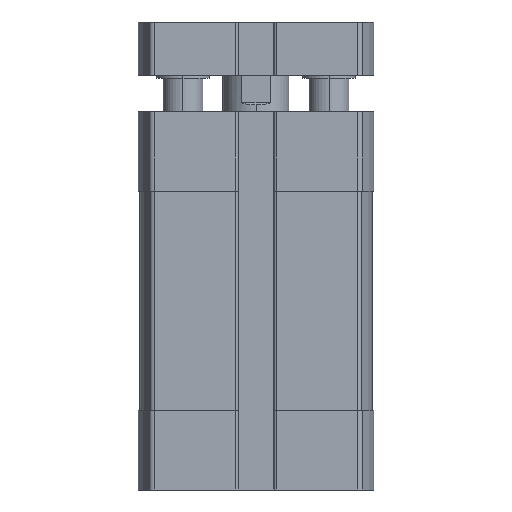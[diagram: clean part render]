
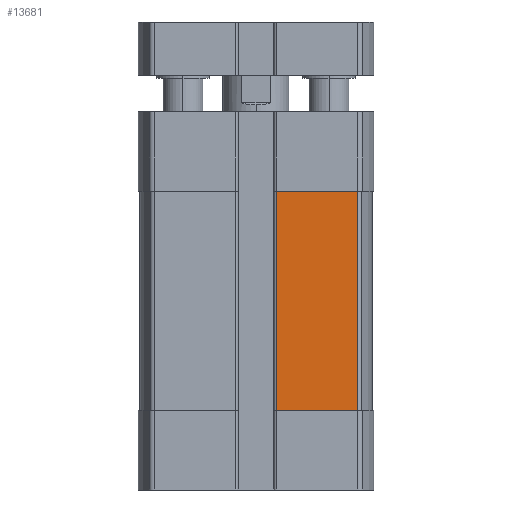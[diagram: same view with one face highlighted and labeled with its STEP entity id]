
A CAD part, front view. The second image highlights one B-rep face of the part: STEP entity #13681.
In plain terms, the highlighted planar face has unit normal (0, -1, 0).
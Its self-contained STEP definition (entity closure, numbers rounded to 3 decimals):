
#625 = DIRECTION ( 'NONE',  ( 0., 0., 1. ) ) ;
#659 = VERTEX_POINT ( 'NONE', #5002 ) ;
#1702 = EDGE_CURVE ( 'NONE', #659, #3060, #16929, .T. ) ;
#1796 = EDGE_CURVE ( 'NONE', #659, #3845, #16464, .T. ) ;
#2279 = EDGE_CURVE ( 'NONE', #3060, #17694, #8225, .T. ) ;
#3060 = VERTEX_POINT ( 'NONE', #15409 ) ;
#3845 = VERTEX_POINT ( 'NONE', #9627 ) ;
#3907 = DIRECTION ( 'NONE',  ( 1., 0., 0. ) ) ;
#5002 = CARTESIAN_POINT ( 'NONE',  ( 3.1, -17.5, -45. ) ) ;
#5481 = AXIS2_PLACEMENT_3D ( 'NONE', #17438, #8432, #15816 ) ;
#6382 = DIRECTION ( 'NONE',  ( 1., 0., 0. ) ) ;
#6874 = EDGE_CURVE ( 'NONE', #3845, #17694, #14474, .T. ) ;
#7943 = CARTESIAN_POINT ( 'NONE',  ( 3.1, -17.5, -45. ) ) ;
#8225 = LINE ( 'NONE', #15004, #12331 ) ;
#8432 = DIRECTION ( 'NONE',  ( 0., -1., 0. ) ) ;
#9627 = CARTESIAN_POINT ( 'NONE',  ( 15.253, -17.5, -45. ) ) ;
#10976 = CARTESIAN_POINT ( 'NONE',  ( 3.1, -17.5, -45. ) ) ;
#11608 = PLANE ( 'NONE',  #5481 ) ;
#11967 = EDGE_LOOP ( 'NONE', ( #16711, #18884, #15344, #14953 ) ) ;
#12331 = VECTOR ( 'NONE', #6382, 1000. ) ;
#13493 = CARTESIAN_POINT ( 'NONE',  ( 15.253, -17.5, -45. ) ) ;
#13512 = VECTOR ( 'NONE', #3907, 1000. ) ;
#13681 = ADVANCED_FACE ( 'NONE', ( #17617 ), #11608, .T. ) ;
#14474 = LINE ( 'NONE', #13493, #17448 ) ;
#14918 = CARTESIAN_POINT ( 'NONE',  ( 15.253, -17.5, -12. ) ) ;
#14953 = ORIENTED_EDGE ( 'NONE', *, *, #6874, .T. ) ;
#15004 = CARTESIAN_POINT ( 'NONE',  ( 3.1, -17.5, -12. ) ) ;
#15344 = ORIENTED_EDGE ( 'NONE', *, *, #1796, .T. ) ;
#15409 = CARTESIAN_POINT ( 'NONE',  ( 3.1, -17.5, -12. ) ) ;
#15548 = VECTOR ( 'NONE', #625, 1000. ) ;
#15816 = DIRECTION ( 'NONE',  ( 0., 0., 1. ) ) ;
#16464 = LINE ( 'NONE', #10976, #13512 ) ;
#16474 = DIRECTION ( 'NONE',  ( 0., 0., 1. ) ) ;
#16711 = ORIENTED_EDGE ( 'NONE', *, *, #2279, .F. ) ;
#16929 = LINE ( 'NONE', #7943, #15548 ) ;
#17438 = CARTESIAN_POINT ( 'NONE',  ( 3.1, -17.5, -45. ) ) ;
#17448 = VECTOR ( 'NONE', #16474, 1000. ) ;
#17617 = FACE_OUTER_BOUND ( 'NONE', #11967, .T. ) ;
#17694 = VERTEX_POINT ( 'NONE', #14918 ) ;
#18884 = ORIENTED_EDGE ( 'NONE', *, *, #1702, .F. ) ;
